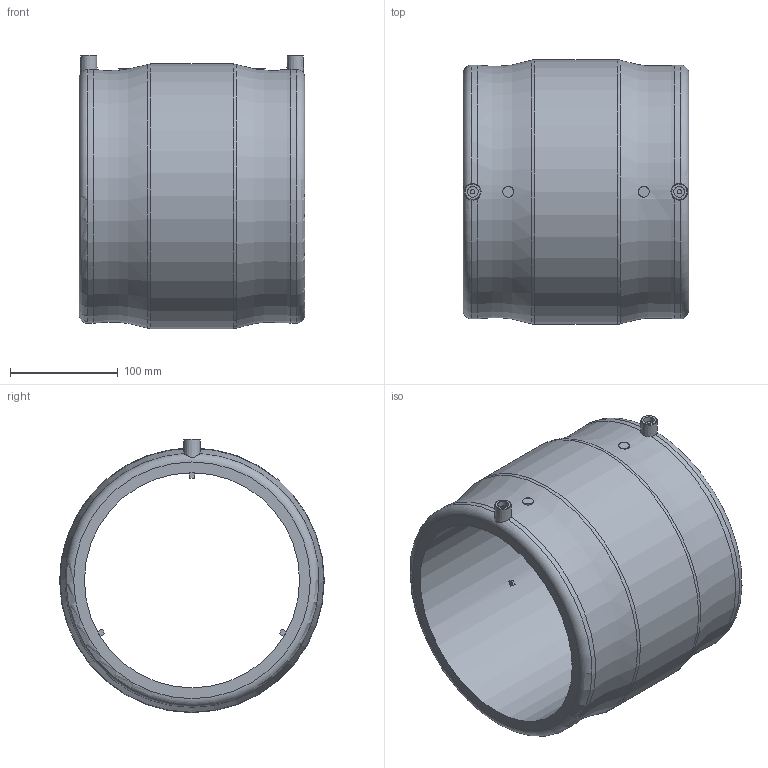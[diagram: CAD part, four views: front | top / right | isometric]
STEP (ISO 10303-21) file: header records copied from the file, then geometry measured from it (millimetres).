
FILE_DESCRIPTION(/* description */ ('Unknown'),/* implementation_level */ '2;1');
FILE_NAME(/* name */ 'MP200C',/* time_stamp */ '2021-02-10T17:43:26+01:00',/* author */ ('Unknown'),/* organization */ ('Unknown'),/* preprocessor_version */ 'ST-DEVELOPER v16.7',/* originating_system */ 'Solid Edge',/* authorisation */ 'Unknown');
FILE_SCHEMA (('AUTOMOTIVE_DESIGN {1 0 10303 214 3 1 1}'));
Length unit declared in the file: millimetre
Products named in the file (1): MP200C
Bounding box: 210 x 246 x 254 mm (x, y, z)
Volume: 2905443.4 mm3; surface area: 313683.8 mm2
Topology: 1 solids, 1 shells, 51 faces, 123 edges, 81 vertices
Faces by surface type: plane 25, cylinder 16, torus 8, cone 2
Full cylindrical faces by diameter (mm): 4 x2, 10 x4, 200 x1, 246 x1
Entity records: 1363 total; most frequent: CARTESIAN_POINT 279, DIRECTION 228, ORIENTED_EDGE 180, AXIS2_PLACEMENT_3D 96, EDGE_CURVE 90, EDGE_LOOP 80, FACE_BOUND 80, VERTEX_POINT 68
